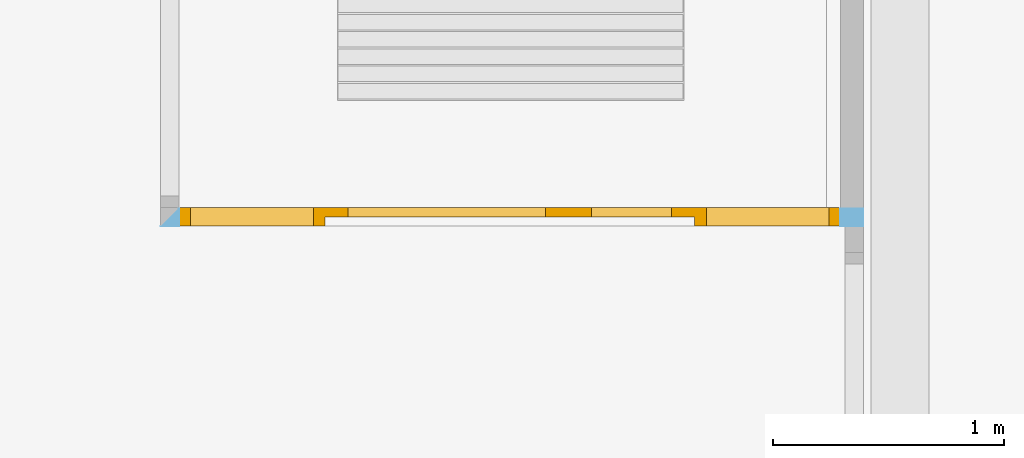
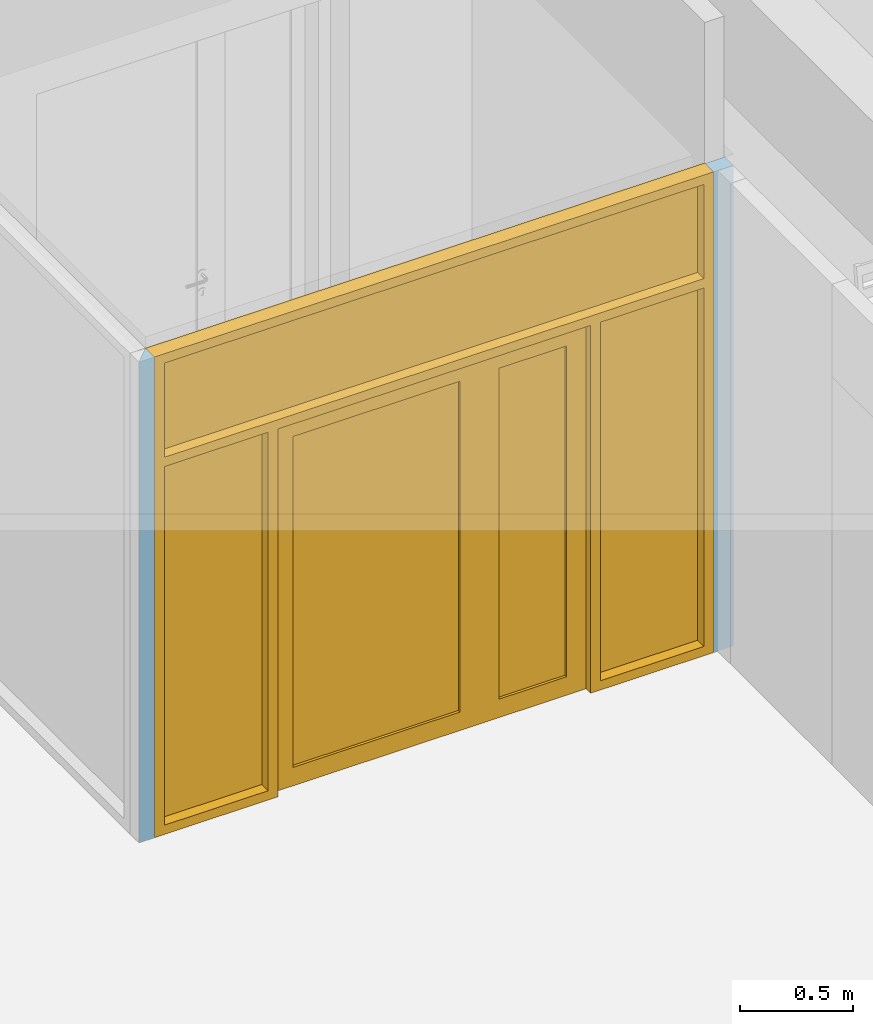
# One storey, part 44 of 91: 1 door, 1 opening, plus 1 element that does not belong to this part.
"""IFC2X3 building model written with IfcOpenShell, lengths in metres."""

from ifc_helpers import new_model, entity, si_unit, converted_unit, derived_unit, money_unit, direction, frame, origin_with_axes, origin_2d_with_axis, place, context, subcontext, project, spatial, polyline, rectangle, outline, extrude, open_shell, faceted_brep, surface_model, material, layer, layer_set, layer_usage, type_object, element, fill, save


model = new_model("IFC2X3")

# Units and contexts
model_context = context("Model", 3, precision=1e-05, world=origin_with_axes(), true_north=direction((0.0, 1.0)))
body_context = subcontext(model_context, "Body", "Model", "MODEL_VIEW")
ifc_project = project(units=[si_unit("LENGTHUNIT", "METRE"), si_unit("AREAUNIT", "SQUARE_METRE"), si_unit("VOLUMEUNIT", "CUBIC_METRE"), converted_unit("PLANEANGLEUNIT", "DEGREE", entity("IfcPlaneAngleMeasure", 0.0174532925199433), si_unit("PLANEANGLEUNIT", "RADIAN"), dimensions=[0, 0, 0, 0, 0, 0, 0]), money_unit("EUR"), converted_unit("TIMEUNIT", "Year", entity("IfcTimeMeasure", 31557600.0), si_unit("TIMEUNIT", "SECOND"), dimensions=[0, 0, 1, 0, 0, 0, 0]), si_unit("MASSUNIT", "GRAM", prefix="KILO"), si_unit("THERMODYNAMICTEMPERATUREUNIT", "DEGREE_CELSIUS"), si_unit("LUMINOUSINTENSITYUNIT", "LUMEN"), si_unit("ENERGYUNIT", "JOULE", prefix="MEGA"), derived_unit("THERMALCONDUCTANCEUNIT", [(si_unit("POWERUNIT", "WATT"), 1), (si_unit("LENGTHUNIT", "METRE"), -1), (si_unit("THERMODYNAMICTEMPERATUREUNIT", "KELVIN"), -1)]), derived_unit("SPECIFICHEATCAPACITYUNIT", [(si_unit("ENERGYUNIT", "JOULE"), 1), (si_unit("MASSUNIT", "GRAM", prefix="KILO"), -1), (si_unit("THERMODYNAMICTEMPERATUREUNIT", "KELVIN"), -1)]), derived_unit("MASSDENSITYUNIT", [(si_unit("MASSUNIT", "GRAM", prefix="KILO"), 1), (si_unit("VOLUMEUNIT", "CUBIC_METRE"), -1)])], contexts=[model_context])

# Site, building, storey
site_placement = place(None, origin_with_axes())
site = spatial("IfcSite", under=ifc_project, at=site_placement, Name="Site", CompositionType="ELEMENT")
building_placement = place(site_placement, origin_with_axes())
building = spatial("IfcBuilding", under=site, at=building_placement, Name="Bâtiment", CompositionType="ELEMENT")
storey_placement = place(building_placement, origin_with_axes())
storey = spatial("IfcBuildingStorey", under=building, at=storey_placement, Name="RDC", CompositionType="ELEMENT", Elevation=0.0)

# Wall, opening, door
ifc_material_1 = material(Name="Finition int - Plaque de plâtre")
ifc_layer_1 = layer(ifc_material_1, 0.013, ventilated="UNKNOWN")
ifc_material_2 = material(Name="Isolation - Laine de verre")
ifc_layer_2 = layer(ifc_material_2, 0.048, ventilated="UNKNOWN")
ifc_layer_3 = layer(ifc_material_1, 0.013, ventilated="UNKNOWN")
ifc_layer_set = layer_set([ifc_layer_1, ifc_layer_2, ifc_layer_3], Name="*Cloison 72")
ifc_layer_usage = layer_usage(ifc_layer_set, "AXIS2", "POSITIVE", 0.0)
wall_type = type_object("IfcWallType", Name="*Cloison 72 74", PredefinedType="NOTDEFINED")
wall_placement = place(storey_placement, frame((51.14542091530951, -13.40056213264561, 0.0), z_axis=(0.0, 0.0, 1.0), x_axis=(1.0, 0.0, 0.0)))
wall = element("IfcWallStandardCase", 1, at=wall_placement, inside=storey, type_object=wall_type, material=ifc_layer_usage, Name="Cloisons ép. 72mm", context=body_context, shape_type="SweptSolid", body=[
    extrude(outline(polyline([(0.0, 0.0), (3.041579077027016, 0.0), (3.041579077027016, 0.07399999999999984), (0.07399999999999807, 0.07399999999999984), (0.0, 0.0)])), origin_with_axes(), (0.0, 0.0, 1.0), 2.6),
])
opening_placement = place(wall_placement, frame((1.510789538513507, 0.0, 0.0), z_axis=(0.0, 0.0, 1.0), x_axis=(1.0, 0.0, 0.0)))
opening = element("IfcOpeningElement", 2, at=opening_placement, cuts=wall, Name="PC.01a", context=body_context, shape_type="SweptSolid", body=[
    extrude(rectangle(XDim=2.861579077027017, YDim=2.6, at=origin_2d_with_axis()), frame((0.0, 0.07399999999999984, 1.3), z_axis=(0.0, -1.0, 0.0), x_axis=(1.0, 0.0, 0.0)), (0.0, 0.0, 1.0), 0.222),
])
door_style = type_object("IfcDoorStyle", Name="Porte double avec 2 fixes latéraux, imposte 27", ConstructionType="NOTDEFINED", OperationType="USERDEFINED", ParameterTakesPrecedence=False, Sizeable=False)
door_placement = place(opening_placement, frame((-1.430789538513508, 0.0, 0.0), z_axis=(0.0, 0.0, 1.0), x_axis=(1.0, 0.0, 0.0)))
door = element("IfcDoor", 3, at=door_placement, inside=storey, type_object=door_style, Name="PC.01a", OverallHeight=2.6, OverallWidth=2.86158, context=body_context, shape_type="SurfaceModel", body=[
    faceted_brep([(0.0, 0.08000000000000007, 0.0), (0.05000000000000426, 0.08000000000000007, 0.0), (0.05000000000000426, 0.0, 0.0), (0.0, 0.0, 0.0), (0.0, 0.08000000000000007, 2.55), (0.05000000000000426, 0.08000000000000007, 2.55), (0.05000000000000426, 0.08000000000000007, 2.04), (0.05000000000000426, 0.08000000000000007, 1.99), (0.05000000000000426, 0.08000000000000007, 0.05), (0.05000000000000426, 0.0, 0.05), (0.05000000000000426, 0.0, 1.99), (0.05000000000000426, 0.0, 2.04), (0.05000000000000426, 0.0, 2.55), (0.0, 0.0, 2.55)], [[[0, 1, 2, 3]], [[0, 4, 5, 6, 7, 8, 1]], [[1, 8, 9, 2]], [[3, 2, 9, 10, 11, 12, 13]], [[4, 0, 3, 13]], [[5, 4, 13, 12]], [[6, 5, 12, 11]], [[7, 6, 11, 10]], [[8, 7, 10, 9]]]),
    faceted_brep([(0.5815790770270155, 0.08000000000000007, 1.99), (0.5815790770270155, 0.08000000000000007, 0.05), (0.5815790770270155, 0.0, 0.05), (0.5815790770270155, 0.0, 1.99), (0.6315790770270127, 0.08000000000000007, 1.99), (0.6315790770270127, 0.08000000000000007, 0.0), (0.5815790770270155, 0.08000000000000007, 0.0), (0.5815790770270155, 0.0, 0.0), (0.6315790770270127, 0.0, 0.0), (0.6315790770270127, 0.0, 1.99)], [[[0, 1, 2, 3]], [[0, 4, 5, 6, 1]], [[1, 6, 7, 2]], [[3, 2, 7, 8, 9]], [[4, 0, 3, 9]], [[5, 4, 9, 8]], [[6, 5, 8, 7]]]),
    faceted_brep([(0.05000000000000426, 0.08000000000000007, 0.05), (0.05000000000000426, 0.08000000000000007, 0.0), (0.05000000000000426, 0.0, 0.0), (0.05000000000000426, 0.0, 0.05), (0.5815790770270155, 0.08000000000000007, 0.05), (0.5815790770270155, 0.08000000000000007, 0.0), (0.5815790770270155, 0.0, 0.0), (0.5815790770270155, 0.0, 0.05)], [[[0, 1, 2, 3]], [[0, 4, 5, 1]], [[1, 5, 6, 2]], [[3, 2, 6, 7]], [[4, 0, 3, 7]], [[5, 4, 7, 6]]]),
    faceted_brep([(2.861579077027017, 0.08000000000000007, 0.0), (2.861579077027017, 0.08000000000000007, 2.55), (2.861579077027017, 0.0, 2.55), (2.861579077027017, 0.0, 0.0), (2.811579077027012, 0.08000000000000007, 0.0), (2.811579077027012, 0.08000000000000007, 0.05), (2.811579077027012, 0.08000000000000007, 1.99), (2.811579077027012, 0.08000000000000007, 2.04), (2.811579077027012, 0.08000000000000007, 2.55), (2.811579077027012, 0.0, 2.55), (2.811579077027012, 0.0, 2.04), (2.811579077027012, 0.0, 1.99), (2.811579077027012, 0.0, 0.05), (2.811579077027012, 0.0, 0.0)], [[[0, 1, 2, 3]], [[0, 4, 5, 6, 7, 8, 1]], [[1, 8, 9, 2]], [[3, 2, 9, 10, 11, 12, 13]], [[4, 0, 3, 13]], [[5, 4, 13, 12]], [[6, 5, 12, 11]], [[7, 6, 11, 10]], [[8, 7, 10, 9]]]),
    faceted_brep([(2.281579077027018, 0.08000000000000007, 1.99), (2.231579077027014, 0.08000000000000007, 1.99), (2.231579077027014, 0.0, 1.99), (2.281579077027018, 0.0, 1.99), (2.281579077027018, 0.08000000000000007, 0.05), (2.281579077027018, 0.08000000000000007, 0.0), (2.231579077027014, 0.08000000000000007, 0.0), (2.231579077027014, 0.0, 0.0), (2.281579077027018, 0.0, 0.0), (2.281579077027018, 0.0, 0.05)], [[[0, 1, 2, 3]], [[0, 4, 5, 6, 1]], [[1, 6, 7, 2]], [[3, 2, 7, 8, 9]], [[4, 0, 3, 9]], [[5, 4, 9, 8]], [[6, 5, 8, 7]]]),
    faceted_brep([(2.281579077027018, 0.08000000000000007, 0.05), (2.281579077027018, 0.08000000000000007, 0.0), (2.281579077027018, 0.0, 0.0), (2.281579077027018, 0.0, 0.05), (2.811579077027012, 0.08000000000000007, 0.05), (2.811579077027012, 0.08000000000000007, 0.0), (2.811579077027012, 0.0, 0.0), (2.811579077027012, 0.0, 0.05)], [[[0, 1, 2, 3]], [[0, 4, 5, 1]], [[1, 5, 6, 2]], [[3, 2, 6, 7]], [[4, 0, 3, 7]], [[5, 4, 7, 6]]]),
    faceted_brep([(0.0, 0.08000000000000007, 2.6), (0.0, 0.08000000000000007, 2.55), (0.0, 0.0, 2.55), (0.0, 0.0, 2.6), (2.861579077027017, 0.08000000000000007, 2.6), (2.861579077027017, 0.08000000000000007, 2.55), (2.811579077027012, 0.08000000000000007, 2.55), (0.05000000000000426, 0.08000000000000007, 2.55), (0.05000000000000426, 0.0, 2.55), (2.811579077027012, 0.0, 2.55), (2.861579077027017, 0.0, 2.55), (2.861579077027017, 0.0, 2.6)], [[[0, 1, 2, 3]], [[0, 4, 5, 6, 7, 1]], [[1, 7, 8, 2]], [[3, 2, 8, 9, 10, 11]], [[4, 0, 3, 11]], [[5, 4, 11, 10]], [[6, 5, 10, 9]], [[7, 6, 9, 8]]]),
    faceted_brep([(0.5815790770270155, 0.08000000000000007, 2.04), (0.05000000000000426, 0.08000000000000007, 2.04), (0.05000000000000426, 0.0, 2.04), (0.5815790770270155, 0.0, 2.04), (2.231579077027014, 0.08000000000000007, 2.04), (2.811579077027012, 0.08000000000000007, 2.04), (2.811579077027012, 0.08000000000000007, 1.99), (2.281579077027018, 0.08000000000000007, 1.99), (2.231579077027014, 0.08000000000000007, 1.99), (0.6315790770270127, 0.08000000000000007, 1.99), (0.5815790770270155, 0.08000000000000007, 1.99), (0.05000000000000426, 0.08000000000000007, 1.99), (0.05000000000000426, 0.0, 1.99), (0.5815790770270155, 0.0, 1.99), (0.6315790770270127, 0.0, 1.99), (2.231579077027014, 0.0, 1.99), (2.281579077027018, 0.0, 1.99), (2.811579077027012, 0.0, 1.99), (2.811579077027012, 0.0, 2.04), (2.231579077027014, 0.0, 2.04)], [[[0, 1, 2, 3]], [[0, 4, 5, 6, 7, 8, 9, 10, 11, 1]], [[1, 11, 12, 2]], [[3, 2, 12, 13, 14, 15, 16, 17, 18, 19]], [[4, 0, 3, 19]], [[5, 4, 19, 18]], [[6, 5, 18, 17]], [[7, 6, 17, 16]], [[8, 7, 16, 15]], [[9, 8, 15, 14]], [[10, 9, 14, 13]], [[11, 10, 13, 12]]]),
    faceted_brep([(2.231579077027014, 0.08000000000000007, 0.1), (2.231579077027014, 0.04000000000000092, 0.1), (2.131579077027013, 0.04000000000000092, 0.1), (2.131579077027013, 0.08000000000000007, 0.1), (2.231579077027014, 0.08000000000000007, 1.89), (2.231579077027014, 0.04000000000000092, 1.89), (2.131579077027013, 0.04000000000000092, 1.89), (2.131579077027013, 0.08000000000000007, 1.89)], [[[0, 1, 2, 3]], [[4, 5, 1, 0]], [[1, 5, 6, 2]], [[3, 2, 6, 7]], [[0, 3, 7, 4]], [[7, 6, 5, 4]]]),
    faceted_brep([(1.685684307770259, 0.08000000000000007, 0.1), (1.685684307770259, 0.04000000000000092, 0.1), (1.685684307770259, 0.04000000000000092, 1.89), (1.685684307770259, 0.08000000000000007, 1.89), (1.785684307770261, 0.08000000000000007, 0.1), (1.785684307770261, 0.04000000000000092, 0.1), (1.785684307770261, 0.04000000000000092, 1.89), (1.785684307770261, 0.08000000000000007, 1.89)], [[[0, 1, 2, 3]], [[4, 5, 1, 0]], [[1, 5, 6, 2]], [[3, 2, 6, 7]], [[0, 3, 7, 4]], [[7, 6, 5, 4]]]),
    faceted_brep([(2.231579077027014, 0.08000000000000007, 0.0), (2.231579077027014, 0.04000000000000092, 0.0), (1.685684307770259, 0.04000000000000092, 0.0), (1.685684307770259, 0.08000000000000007, 0.0), (2.231579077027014, 0.08000000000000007, 0.1), (2.231579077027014, 0.04000000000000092, 0.1), (2.131579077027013, 0.04000000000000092, 0.1), (1.785684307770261, 0.04000000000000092, 0.1), (1.685684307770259, 0.04000000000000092, 0.1), (1.685684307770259, 0.08000000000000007, 0.1), (1.785684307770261, 0.08000000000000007, 0.1), (2.131579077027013, 0.08000000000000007, 0.1)], [[[0, 1, 2, 3]], [[4, 5, 1, 0]], [[1, 5, 6, 7, 8, 2]], [[3, 2, 8, 9]], [[0, 3, 9, 10, 11, 4]], [[11, 6, 5, 4]], [[10, 7, 6, 11]], [[9, 8, 7, 10]]]),
    faceted_brep([(2.231579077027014, 0.08000000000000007, 1.99), (2.231579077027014, 0.04000000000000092, 1.99), (2.231579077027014, 0.04000000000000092, 1.89), (2.231579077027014, 0.08000000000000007, 1.89), (1.685684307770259, 0.08000000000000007, 1.99), (1.685684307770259, 0.04000000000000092, 1.99), (1.685684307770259, 0.04000000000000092, 1.89), (1.785684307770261, 0.04000000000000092, 1.89), (2.131579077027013, 0.04000000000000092, 1.89), (2.131579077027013, 0.08000000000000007, 1.89), (1.785684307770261, 0.08000000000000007, 1.89), (1.685684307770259, 0.08000000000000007, 1.89)], [[[0, 1, 2, 3]], [[4, 5, 1, 0]], [[1, 5, 6, 7, 8, 2]], [[3, 2, 8, 9]], [[0, 3, 9, 10, 11, 4]], [[11, 6, 5, 4]], [[10, 7, 6, 11]], [[9, 8, 7, 10]]]),
    surface_model("IfcShellBasedSurfaceModel", [(2.131579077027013, 0.06600000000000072, 0.1), (1.785684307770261, 0.06600000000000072, 0.1), (1.785684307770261, 0.06600000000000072, 1.89), (2.131579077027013, 0.06600000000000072, 1.89)], [open_shell([[[0, 1, 2, 3]]])]),
    surface_model("IfcShellBasedSurfaceModel", [(2.131579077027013, 0.05400000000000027, 0.1), (2.131579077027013, 0.05400000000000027, 1.89), (1.785684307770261, 0.05400000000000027, 1.89), (1.785684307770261, 0.05400000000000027, 0.1)], [open_shell([[[0, 1, 2, 3]]])]),
    faceted_brep([(0.6315790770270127, 0.08000000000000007, 0.1), (0.7315790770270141, 0.08000000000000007, 0.1), (0.7315790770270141, 0.04000000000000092, 0.1), (0.6315790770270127, 0.04000000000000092, 0.1), (0.6315790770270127, 0.08000000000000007, 1.89), (0.7315790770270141, 0.08000000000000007, 1.89), (0.7315790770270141, 0.04000000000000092, 1.89), (0.6315790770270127, 0.04000000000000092, 1.89)], [[[0, 1, 2, 3]], [[0, 4, 5, 1]], [[1, 5, 6, 2]], [[3, 2, 6, 7]], [[4, 0, 3, 7]], [[5, 4, 7, 6]]]),
    faceted_brep([(1.685684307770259, 0.08000000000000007, 0.1), (1.685684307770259, 0.08000000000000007, 1.89), (1.685684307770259, 0.04000000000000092, 1.89), (1.685684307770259, 0.04000000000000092, 0.1), (1.585684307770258, 0.08000000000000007, 0.1), (1.585684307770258, 0.08000000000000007, 1.89), (1.585684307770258, 0.04000000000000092, 1.89), (1.585684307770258, 0.04000000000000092, 0.1)], [[[0, 1, 2, 3]], [[0, 4, 5, 1]], [[1, 5, 6, 2]], [[3, 2, 6, 7]], [[4, 0, 3, 7]], [[5, 4, 7, 6]]]),
    faceted_brep([(0.6315790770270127, 0.08000000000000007, 0.0), (1.685684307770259, 0.08000000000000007, 0.0), (1.685684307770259, 0.04000000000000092, 0.0), (0.6315790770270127, 0.04000000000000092, 0.0), (0.6315790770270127, 0.08000000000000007, 0.1), (0.7315790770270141, 0.08000000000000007, 0.1), (1.585684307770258, 0.08000000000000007, 0.1), (1.685684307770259, 0.08000000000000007, 0.1), (1.685684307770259, 0.04000000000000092, 0.1), (1.585684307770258, 0.04000000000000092, 0.1), (0.7315790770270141, 0.04000000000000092, 0.1), (0.6315790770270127, 0.04000000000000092, 0.1)], [[[0, 1, 2, 3]], [[0, 4, 5, 6, 7, 1]], [[1, 7, 8, 2]], [[3, 2, 8, 9, 10, 11]], [[4, 0, 3, 11]], [[5, 4, 11, 10]], [[6, 5, 10, 9]], [[7, 6, 9, 8]]]),
    faceted_brep([(0.6315790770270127, 0.08000000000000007, 1.99), (0.6315790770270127, 0.08000000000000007, 1.89), (0.6315790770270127, 0.04000000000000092, 1.89), (0.6315790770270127, 0.04000000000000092, 1.99), (1.685684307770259, 0.08000000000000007, 1.99), (1.685684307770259, 0.08000000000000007, 1.89), (1.585684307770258, 0.08000000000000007, 1.89), (0.7315790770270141, 0.08000000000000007, 1.89), (0.7315790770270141, 0.04000000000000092, 1.89), (1.585684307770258, 0.04000000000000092, 1.89), (1.685684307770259, 0.04000000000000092, 1.89), (1.685684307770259, 0.04000000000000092, 1.99)], [[[0, 1, 2, 3]], [[0, 4, 5, 6, 7, 1]], [[1, 7, 8, 2]], [[3, 2, 8, 9, 10, 11]], [[4, 0, 3, 11]], [[5, 4, 11, 10]], [[6, 5, 10, 9]], [[7, 6, 9, 8]]]),
    surface_model("IfcShellBasedSurfaceModel", [(0.7315790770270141, 0.06600000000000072, 0.1), (0.7315790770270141, 0.06600000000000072, 1.89), (1.585684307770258, 0.06600000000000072, 1.89), (1.585684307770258, 0.06600000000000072, 0.1)], [open_shell([[[0, 1, 2, 3]]])]),
    surface_model("IfcShellBasedSurfaceModel", [(0.7315790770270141, 0.05400000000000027, 0.1), (1.585684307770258, 0.05400000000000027, 0.1), (1.585684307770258, 0.05400000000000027, 1.89), (0.7315790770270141, 0.05400000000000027, 1.89)], [open_shell([[[0, 1, 2, 3]]])]),
    surface_model("IfcShellBasedSurfaceModel", [(0.05000000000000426, 0.05600000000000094, 2.04), (2.811579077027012, 0.05600000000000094, 2.04), (2.811579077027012, 0.05600000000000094, 2.55), (0.05000000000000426, 0.05600000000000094, 2.55)], [open_shell([[[0, 1, 2, 3]]])]),
    surface_model("IfcShellBasedSurfaceModel", [(0.05000000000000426, 0.06799999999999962, 2.04), (0.05000000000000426, 0.06799999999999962, 2.55), (2.811579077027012, 0.06799999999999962, 2.55), (2.811579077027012, 0.06799999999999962, 2.04)], [open_shell([[[0, 1, 2, 3]]])]),
    surface_model("IfcShellBasedSurfaceModel", [(0.05000000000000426, 0.05600000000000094, 0.05), (0.5815790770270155, 0.05600000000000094, 0.05), (0.5815790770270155, 0.05600000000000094, 1.99), (0.05000000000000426, 0.05600000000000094, 1.99)], [open_shell([[[0, 1, 2, 3]]])]),
    surface_model("IfcShellBasedSurfaceModel", [(0.05000000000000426, 0.06799999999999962, 0.05), (0.05000000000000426, 0.06799999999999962, 1.99), (0.5815790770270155, 0.06799999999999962, 1.99), (0.5815790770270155, 0.06799999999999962, 0.05)], [open_shell([[[0, 1, 2, 3]]])]),
    surface_model("IfcShellBasedSurfaceModel", [(2.281579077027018, 0.05600000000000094, 0.05), (2.811579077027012, 0.05600000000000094, 0.05), (2.811579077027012, 0.05600000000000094, 1.99), (2.281579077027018, 0.05600000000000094, 1.99)], [open_shell([[[0, 1, 2, 3]]])]),
    surface_model("IfcShellBasedSurfaceModel", [(2.281579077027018, 0.06799999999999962, 0.05), (2.281579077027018, 0.06799999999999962, 1.99), (2.811579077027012, 0.06799999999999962, 1.99), (2.811579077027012, 0.06799999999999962, 0.05)], [open_shell([[[0, 1, 2, 3]]])]),
])
fill(opening, door)

save(model, "model.ifc")
